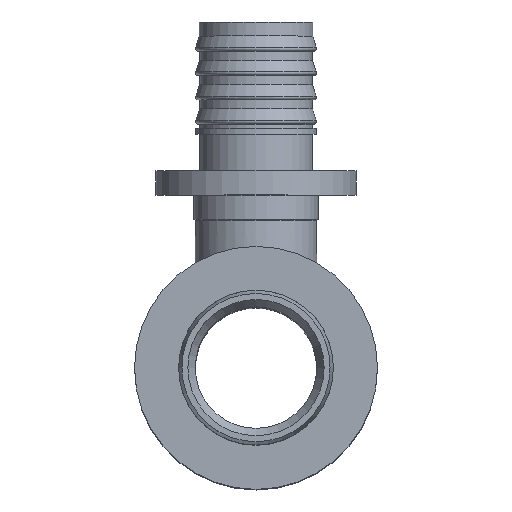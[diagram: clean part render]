
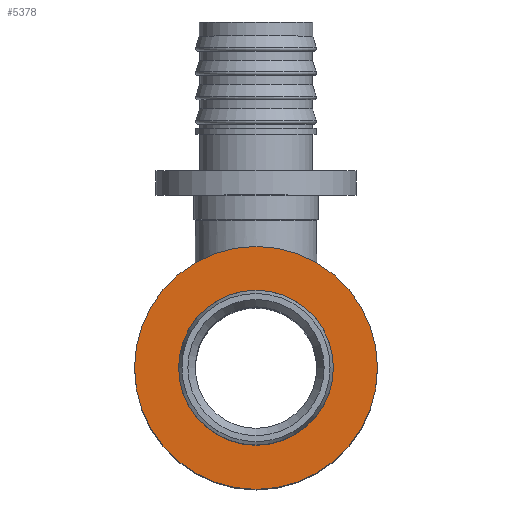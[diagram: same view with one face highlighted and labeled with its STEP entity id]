
A CAD part, top view. The second image highlights one B-rep face of the part: STEP entity #5378.
In plain terms, the highlighted planar face has unit normal (0, 0, 1).
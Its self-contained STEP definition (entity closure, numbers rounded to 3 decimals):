
#81=FACE_BOUND('',#1337,.T.);
#278=CIRCLE('',#5758,20.);
#279=CIRCLE('',#5759,20.);
#280=CIRCLE('',#5761,12.19);
#281=CIRCLE('',#5762,12.19);
#1017=FACE_OUTER_BOUND('',#1336,.T.);
#1336=EDGE_LOOP('',(#4748,#4749));
#1337=EDGE_LOOP('',(#4750,#4751));
#2489=VERTEX_POINT('',#11961);
#2490=VERTEX_POINT('',#11962);
#2491=VERTEX_POINT('',#11967);
#2492=VERTEX_POINT('',#11968);
#3271=EDGE_CURVE('',#2489,#2490,#278,.T.);
#3272=EDGE_CURVE('',#2490,#2489,#279,.T.);
#3274=EDGE_CURVE('',#2491,#2492,#280,.T.);
#3275=EDGE_CURVE('',#2492,#2491,#281,.T.);
#4748=ORIENTED_EDGE('',*,*,#3271,.T.);
#4749=ORIENTED_EDGE('',*,*,#3272,.T.);
#4750=ORIENTED_EDGE('',*,*,#3274,.F.);
#4751=ORIENTED_EDGE('',*,*,#3275,.F.);
#5121=PLANE('',#5760);
#5378=ADVANCED_FACE('',(#1017,#81),#5121,.T.);
#5758=AXIS2_PLACEMENT_3D('',#11963,#6792,#6793);
#5759=AXIS2_PLACEMENT_3D('',#11964,#6794,#6795);
#5760=AXIS2_PLACEMENT_3D('',#11966,#6797,#6798);
#5761=AXIS2_PLACEMENT_3D('',#11969,#6799,#6800);
#5762=AXIS2_PLACEMENT_3D('',#11970,#6801,#6802);
#6792=DIRECTION('center_axis',(0.,0.,1.));
#6793=DIRECTION('ref_axis',(1.,0.,0.));
#6794=DIRECTION('center_axis',(0.,0.,1.));
#6795=DIRECTION('ref_axis',(1.,0.,0.));
#6797=DIRECTION('center_axis',(0.,0.,1.));
#6798=DIRECTION('ref_axis',(1.,0.,0.));
#6799=DIRECTION('center_axis',(0.,0.,1.));
#6800=DIRECTION('ref_axis',(1.,0.,0.));
#6801=DIRECTION('center_axis',(0.,0.,1.));
#6802=DIRECTION('ref_axis',(1.,0.,0.));
#11961=CARTESIAN_POINT('',(0.,-20.,92.121));
#11962=CARTESIAN_POINT('',(0.,20.,92.121));
#11963=CARTESIAN_POINT('Origin',(0.,0.,92.121));
#11964=CARTESIAN_POINT('Origin',(0.,0.,92.121));
#11966=CARTESIAN_POINT('Origin',(0.,-12.19,92.121));
#11967=CARTESIAN_POINT('',(0.,-12.19,92.121));
#11968=CARTESIAN_POINT('',(0.,12.19,92.121));
#11969=CARTESIAN_POINT('Origin',(0.,0.,92.121));
#11970=CARTESIAN_POINT('Origin',(0.,0.,92.121));
